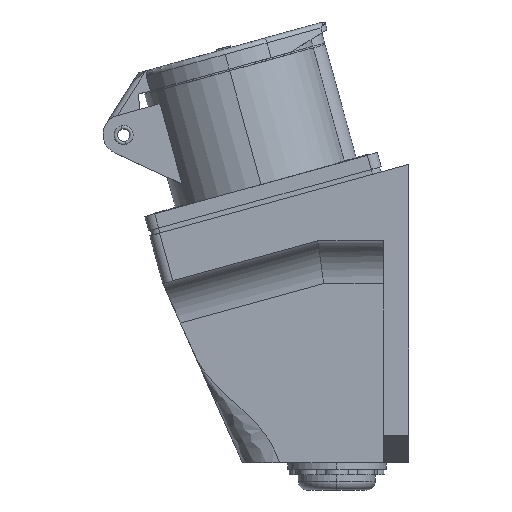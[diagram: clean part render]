
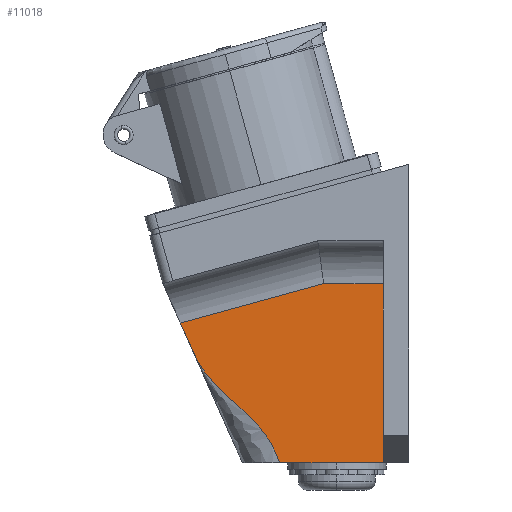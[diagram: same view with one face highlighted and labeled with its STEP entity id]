
A CAD part, left-side view. The second image highlights one B-rep face of the part: STEP entity #11018.
In plain terms, the highlighted planar face has unit normal (-1, 0, 0).
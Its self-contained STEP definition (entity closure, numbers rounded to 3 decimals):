
#2162 = EDGE_LOOP ( 'NONE', ( #15363, #15365, #15364, #15366, #15368 ) ) ;
#4998 = EDGE_CURVE ( 'NONE', #10344, #10345, #5330, .T. ) ;
#5053 = EDGE_CURVE ( 'NONE', #10356, #10344, #15154, .T. ) ;
#5054 = EDGE_CURVE ( 'NONE', #15681, #10356, #5557, .T. ) ;
#5055 = EDGE_CURVE ( 'NONE', #15682, #10345, #5560, .T. ) ;
#5056 = EDGE_CURVE ( 'NONE', #15682, #15681, #5563, .T. ) ;
#5330 = LINE ( 'NONE', #5331, #15648 ) ;
#5331 = CARTESIAN_POINT ( 'NONE',  ( -23., 0., -43.6 ) ) ;
#5332 = DIRECTION ( 'NONE',  ( 0., -1., 0. ) ) ;
#5546 = CARTESIAN_POINT ( 'NONE',  ( -23., 66.826, -2.784 ) ) ;
#5547 = CARTESIAN_POINT ( 'NONE',  ( -23., 65.285, -6.172 ) ) ;
#5548 = CARTESIAN_POINT ( 'NONE',  ( -23., 63.744, -9.56 ) ) ;
#5549 = CARTESIAN_POINT ( 'NONE',  ( -23., 62.203, -12.948 ) ) ;
#5550 = CARTESIAN_POINT ( 'NONE',  ( -23., 57.58, -23.111 ) ) ;
#5551 = CARTESIAN_POINT ( 'NONE',  ( -23., 44.092, -29.337 ) ) ;
#5552 = CARTESIAN_POINT ( 'NONE',  ( -23., 39.561, -39.541 ) ) ;
#5553 = CARTESIAN_POINT ( 'NONE',  ( -23., 38.96, -40.894 ) ) ;
#5554 = CARTESIAN_POINT ( 'NONE',  ( -23., 38.359, -42.247 ) ) ;
#5555 = CARTESIAN_POINT ( 'NONE',  ( -23., 37.758, -43.6 ) ) ;
#5557 = LINE ( 'NONE', #5558, #15572 ) ;
#5558 = CARTESIAN_POINT ( 'NONE',  ( -23., 68.637, -3.283 ) ) ;
#5559 = DIRECTION ( 'NONE',  ( 0., 0.964, -0.266 ) ) ;
#5560 = LINE ( 'NONE', #5561, #15631 ) ;
#5561 = CARTESIAN_POINT ( 'NONE',  ( -23., 7.5, -43.6 ) ) ;
#5562 = DIRECTION ( 'NONE',  ( 0., 0., -1. ) ) ;
#5563 = LINE ( 'NONE', #5564, #15658 ) ;
#5564 = CARTESIAN_POINT ( 'NONE',  ( -23., 26.644, 8.749 ) ) ;
#5565 = DIRECTION ( 'NONE',  ( 0., 1., 0. ) ) ;
#6026 = CARTESIAN_POINT ( 'NONE',  ( -23., 37.758, -43.6 ) ) ;
#6027 = CARTESIAN_POINT ( 'NONE',  ( -23., 7.5, -43.6 ) ) ;
#6038 = CARTESIAN_POINT ( 'NONE',  ( -23., 66.826, -2.784 ) ) ;
#6296 = PLANE ( 'NONE',  #16093 ) ;
#6297 = CARTESIAN_POINT ( 'NONE',  ( -23., 8.162, -45.848 ) ) ;
#6298 = DIRECTION ( 'NONE',  ( 1., 0., 0. ) ) ;
#6299 = DIRECTION ( 'NONE',  ( 0., 0., 1. ) ) ;
#10344 = VERTEX_POINT ( 'NONE', #6026 ) ;
#10345 = VERTEX_POINT ( 'NONE', #6027 ) ;
#10356 = VERTEX_POINT ( 'NONE', #6038 ) ;
#11018 = ADVANCED_FACE ( 'NONE', ( #16099 ), #6296, .F. ) ;
#13283 = CARTESIAN_POINT ( 'NONE',  ( -23., 24.954, 8.749 ) ) ;
#13284 = CARTESIAN_POINT ( 'NONE',  ( -23., 7.5, 8.749 ) ) ;
#15154 = B_SPLINE_CURVE_WITH_KNOTS ( 'NONE', 3,
 ( #5546, #5547, #5548, #5549, #5550, #5551, #5552, #5553, #5554, #5555 ),
 .UNSPECIFIED., .F., .F.,
 ( 4, 3, 3, 4 ),
 ( -0.045, -0.033, 0., 0.004 ),
 .UNSPECIFIED. ) ;
#15363 = ORIENTED_EDGE ( 'NONE', *, *, #5054, .T. ) ;
#15364 = ORIENTED_EDGE ( 'NONE', *, *, #4998, .T. ) ;
#15365 = ORIENTED_EDGE ( 'NONE', *, *, #5053, .T. ) ;
#15366 = ORIENTED_EDGE ( 'NONE', *, *, #5055, .F. ) ;
#15368 = ORIENTED_EDGE ( 'NONE', *, *, #5056, .T. ) ;
#15572 = VECTOR ( 'NONE', #5559, 1000. ) ;
#15631 = VECTOR ( 'NONE', #5562, 1000. ) ;
#15648 = VECTOR ( 'NONE', #5332, 1000. ) ;
#15658 = VECTOR ( 'NONE', #5565, 1000. ) ;
#15681 = VERTEX_POINT ( 'NONE', #13283 ) ;
#15682 = VERTEX_POINT ( 'NONE', #13284 ) ;
#16093 = AXIS2_PLACEMENT_3D ( 'NONE', #6297, #6298, #6299 ) ;
#16099 = FACE_OUTER_BOUND ( 'NONE', #2162, .T. ) ;
